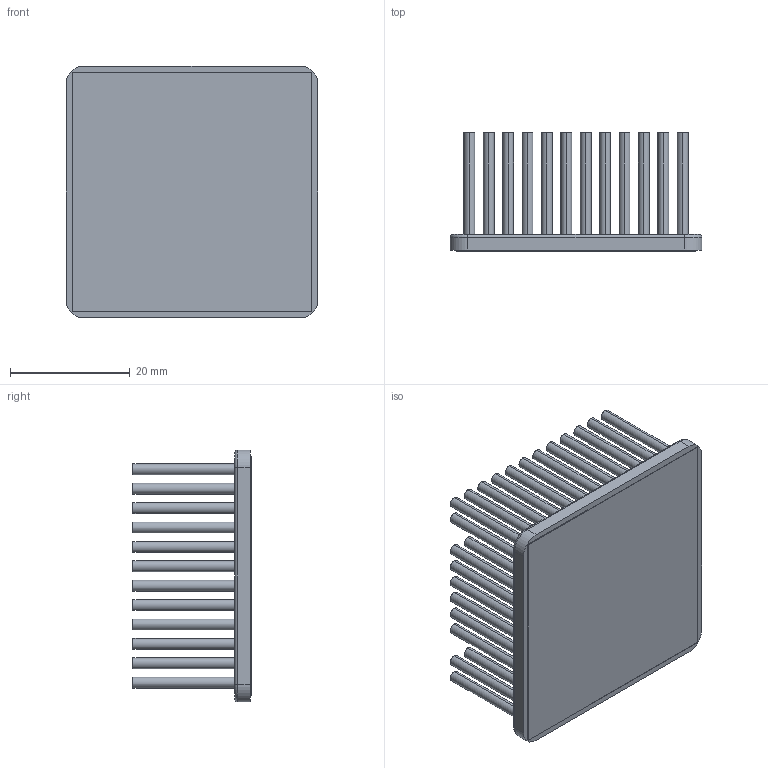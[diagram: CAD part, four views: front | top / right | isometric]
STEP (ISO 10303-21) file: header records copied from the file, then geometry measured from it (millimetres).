
FILE_DESCRIPTION (( 'STEP AP214' ), '1' );
FILE_NAME ('INM42.5002-20P-2.6.STEP', '2023-02-28T00:22:52', ( '' ), ( '' ), 'SwSTEP 2.0', 'SolidWorks 2020', '' );
FILE_SCHEMA (( 'AUTOMOTIVE_DESIGN' ));
Length unit declared in the file: inch
Products named in the file (1): INM42.5002-20P-2.6
Bounding box: 42.1 x 19.73 x 42.1 mm (x, y, z)
Volume: 10666 mm3; surface area: 20213 mm2
Topology: 2 solids, 2 shells, 432 faces, 868 edges, 576 vertices
Faces by surface type: cylinder 280, plane 148, torus 4
Entity records: 17199 total; most frequent: DIRECTION 2298, CARTESIAN_POINT 1877, ORIENTED_EDGE 1736, AXIS2_PLACEMENT_3D 997, EDGE_CURVE 868, VERTEX_POINT 576, EDGE_LOOP 568, CIRCLE 564
